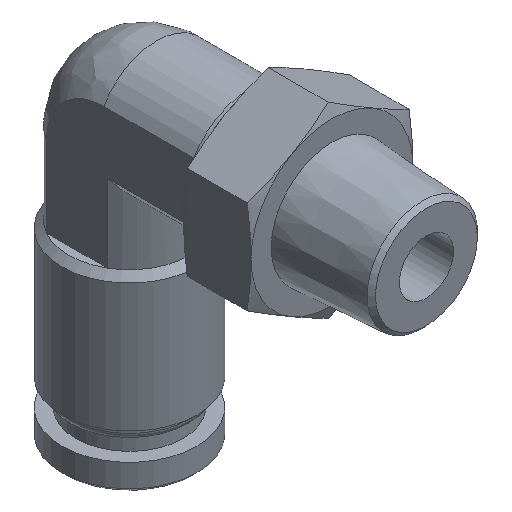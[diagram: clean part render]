
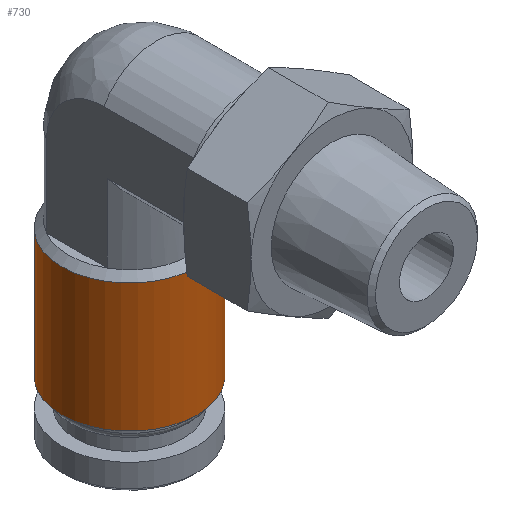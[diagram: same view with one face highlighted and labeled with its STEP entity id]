
A CAD part, isometric view. The second image highlights one B-rep face of the part: STEP entity #730.
In plain terms, the highlighted cylindrical face has radius 5 mm (diameter 10 mm), a full revolution.
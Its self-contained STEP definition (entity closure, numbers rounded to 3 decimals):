
#24=CYLINDRICAL_SURFACE('',#844,5.);
#119=FACE_OUTER_BOUND('',#176,.T.);
#176=EDGE_LOOP('',(#623,#624,#625,#626));
#206=LINE('',#1318,#236);
#236=VECTOR('',#1045,5.);
#285=CIRCLE('',#837,5.);
#288=CIRCLE('',#843,5.);
#349=VERTEX_POINT('',#1305);
#351=VERTEX_POINT('',#1315);
#441=EDGE_CURVE('',#349,#349,#285,.T.);
#445=EDGE_CURVE('',#351,#351,#288,.T.);
#446=EDGE_CURVE('',#349,#351,#206,.T.);
#623=ORIENTED_EDGE('',*,*,#441,.F.);
#624=ORIENTED_EDGE('',*,*,#446,.T.);
#625=ORIENTED_EDGE('',*,*,#445,.T.);
#626=ORIENTED_EDGE('',*,*,#446,.F.);
#730=ADVANCED_FACE('',(#119),#24,.T.);
#837=AXIS2_PLACEMENT_3D('',#1307,#1028,#1029);
#843=AXIS2_PLACEMENT_3D('',#1316,#1041,#1042);
#844=AXIS2_PLACEMENT_3D('',#1317,#1043,#1044);
#1028=DIRECTION('center_axis',(0.,0.,1.));
#1029=DIRECTION('ref_axis',(1.,0.,0.));
#1041=DIRECTION('center_axis',(0.,0.,1.));
#1042=DIRECTION('ref_axis',(1.,0.,0.));
#1043=DIRECTION('center_axis',(0.,0.,1.));
#1044=DIRECTION('ref_axis',(0.,-1.,0.));
#1045=DIRECTION('',(0.,0.,-1.));
#1305=CARTESIAN_POINT('',(0.,14.,-8.5));
#1307=CARTESIAN_POINT('Origin',(0.,9.,-8.5));
#1315=CARTESIAN_POINT('',(0.,14.,-18.));
#1316=CARTESIAN_POINT('Origin',(0.,9.,-18.));
#1317=CARTESIAN_POINT('Origin',(0.,9.,-13.25));
#1318=CARTESIAN_POINT('',(0.,14.,-13.25));
